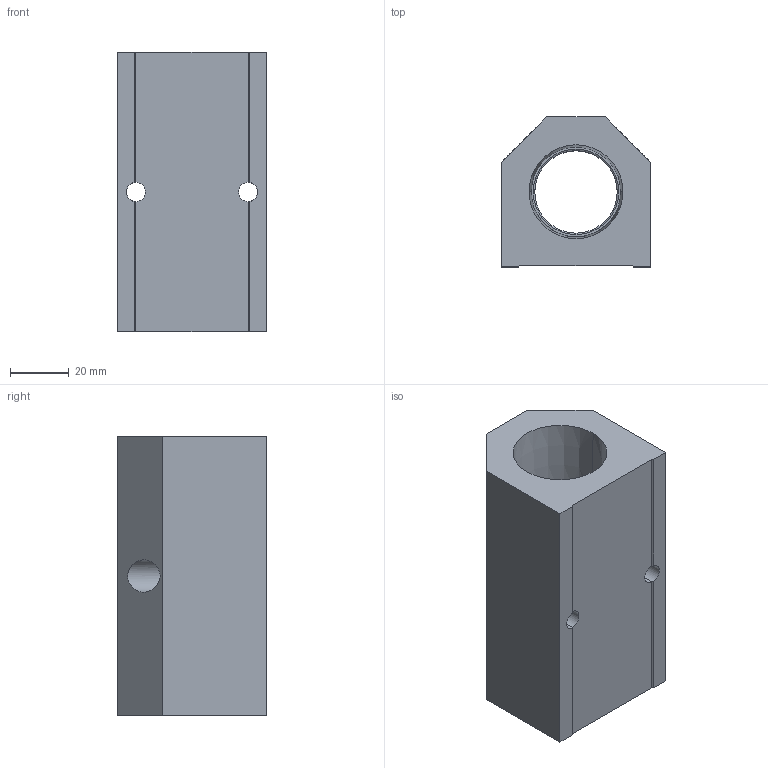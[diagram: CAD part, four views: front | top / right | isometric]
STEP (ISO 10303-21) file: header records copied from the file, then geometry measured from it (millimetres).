
FILE_DESCRIPTION (( 'STEP AP214' ), '1' );
FILE_NAME ('ALM2C-N4N16-95B.STEP', '2023-11-02T06:32:39', ( '' ), ( '' ), 'SwSTEP 2.0', 'SolidWorks 2020', '' );
FILE_SCHEMA (( 'AUTOMOTIVE_DESIGN' ));
Length unit declared in the file: millimetre
Products named in the file (1): ALM2C-N4N16-95B
Bounding box: 50.8 x 50.8 x 95 mm (x, y, z)
Volume: 148475.1 mm3; surface area: 31873.8 mm2
Topology: 1 solids, 1 shells, 260 faces, 675 edges, 446 vertices
Faces by surface type: plane 180, bspline 54, cylinder 14, cone 12
Entity records: 13896 total; most frequent: CARTESIAN_POINT 5448, ORIENTED_EDGE 1350, DIRECTION 1005, EDGE_CURVE 675, VECTOR 519, LINE 519, VERTEX_POINT 446, EDGE_LOOP 299
